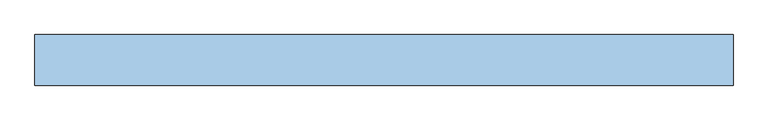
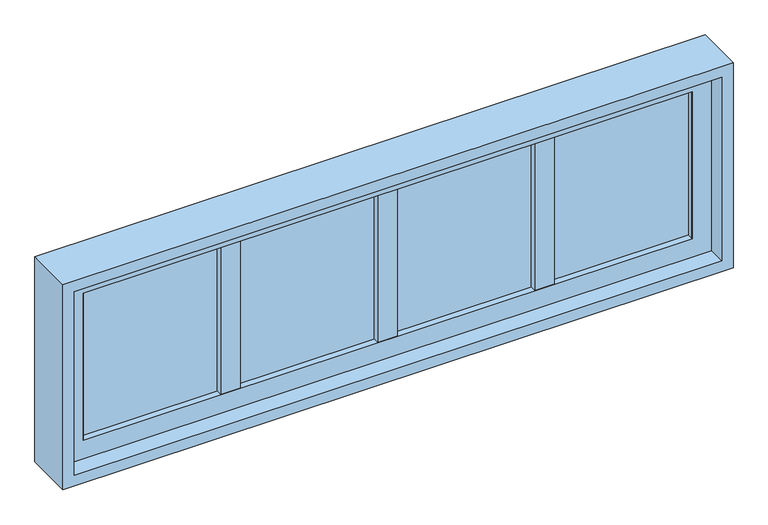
"""IFC4 building model written with IfcOpenShell, lengths in millimetres: window geometry, Janela maxim-ar - PARAMÉTRICA : 4 PAINÉIS - 2.00X0.60."""

from ifc_helpers import new_model, si_unit, frame, origin, place, context, project, spatial, polyline, outline, extrude, source, transform, mapped, element, save


def window_6059a996(model_context):
    return source(origin(), model_context, "Body", "SweptSolid", [
        extrude(outline(polyline([(515.0, 18.0), (515.0, -18.0414253), (455.0, -18.0414253), (455.0, 18.0), (515.0, 18.0)])), frame((0.0, 0.0, 835.0), z_axis=(0.0, 0.0, 1.0), x_axis=(1.0, 0.0, 0.0)), (0.0, 0.0, 1.0), 600.0),
        extrude(outline(polyline([(30.0, 18.0), (30.0, -18.0414253), (-30.0, -18.0414253), (-30.0, 18.0), (30.0, 18.0)])), frame((0.0, 0.0, 835.0), z_axis=(0.0, 0.0, 1.0), x_axis=(1.0, 0.0, 0.0)), (0.0, 0.0, 1.0), 600.0),
        extrude(outline(polyline([(-455.0, 18.0), (-455.0, -18.0414253), (-515.0, -18.0414253), (-515.0, 18.0), (-455.0, 18.0)])), frame((0.0, 0.0, 835.0), z_axis=(0.0, 0.0, 1.0), x_axis=(1.0, 0.0, 0.0)), (0.0, 0.0, 1.0), 600.0),
        extrude(outline(polyline([(1000.0, 18.0), (1000.0, -18.0414253), (940.0, -18.0414253), (940.0, 18.0), (1000.0, 18.0)])), frame((0.0, 0.0, 835.0), z_axis=(0.0, 0.0, 1.0), x_axis=(1.0, 0.0, 0.0)), (0.0, 0.0, 1.0), 600.0),
        extrude(outline(polyline([(-940.0, 18.0), (-940.0, -18.0414253), (-1000.0, -18.0414253), (-1000.0, 18.0), (-940.0, 18.0)])), frame((0.0, 0.0, 835.0), z_axis=(0.0, 0.0, 1.0), x_axis=(1.0, 0.0, 0.0)), (0.0, 0.0, 1.0), 600.0),
        extrude(outline(polyline([(835.0, -1000.0), (835.0, 1000.0), (1435.0, 1000.0), (1435.0, -1000.0), (835.0, -1000.0)]), holes=[polyline([(1375.0, -940.0), (1375.0, 940.0), (895.0, 940.0), (895.0, -940.0), (1375.0, -940.0)])]), frame((0.0, -20.0, 0.0), z_axis=(0.0, 1.0, 0.0), x_axis=(0.0, 0.0, 1.0)), (0.0, 0.0, 1.0), 40.0),
        extrude(outline(polyline([(800.0, -1035.0), (800.0, 1035.0), (1470.0, 1035.0), (1470.0, -1035.0), (800.0, -1035.0)]), holes=[polyline([(1435.0, -1000.0), (1435.0, 1000.0), (835.0, 1000.0), (835.0, -1000.0), (1435.0, -1000.0)])]), frame((0.0, -75.0, 0.0), z_axis=(0.0, 1.0, 0.0), x_axis=(0.0, 0.0, 1.0)), (0.0, 0.0, 1.0), 150.0),
        extrude(outline(polyline([(940.0, 15.0), (940.0, 0.0), (-940.0, 0.0), (-940.0, 15.0), (940.0, 15.0)])), frame((0.0, 0.0, 895.0), z_axis=(0.0, 0.0, 1.0), x_axis=(1.0, 0.0, 0.0)), (0.0, 0.0, 1.0), 480.0),
    ])


if __name__ == "__main__":
    model = new_model("IFC4")
    model_context = context("Model", 3, world=origin())
    ifc_project = project(units=[si_unit("LENGTHUNIT", "METRE", prefix="MILLI")], contexts=[model_context])
    site = spatial("IfcSite", under=ifc_project)
    building = spatial("IfcBuilding", under=site)
    placement = place(None, origin())
    window_shape = window_6059a996(model_context)
    element("IfcWindow", 1, ObjectType="Janela maxim-ar - PARAMÉTRICA : 4 PAINÉIS - 2.00X0.60", at=placement, inside=building, context=model_context, shape_type="MappedRepresentation", body=[
        mapped(window_shape, transform((0.0, 0.0, 0.0), x_axis=(1.0, 0.0, 0.0), y_axis=(0.0, 1.0, 0.0), z_axis=(0.0, 0.0, 1.0))),
    ])
    save(model, "model.ifc")
